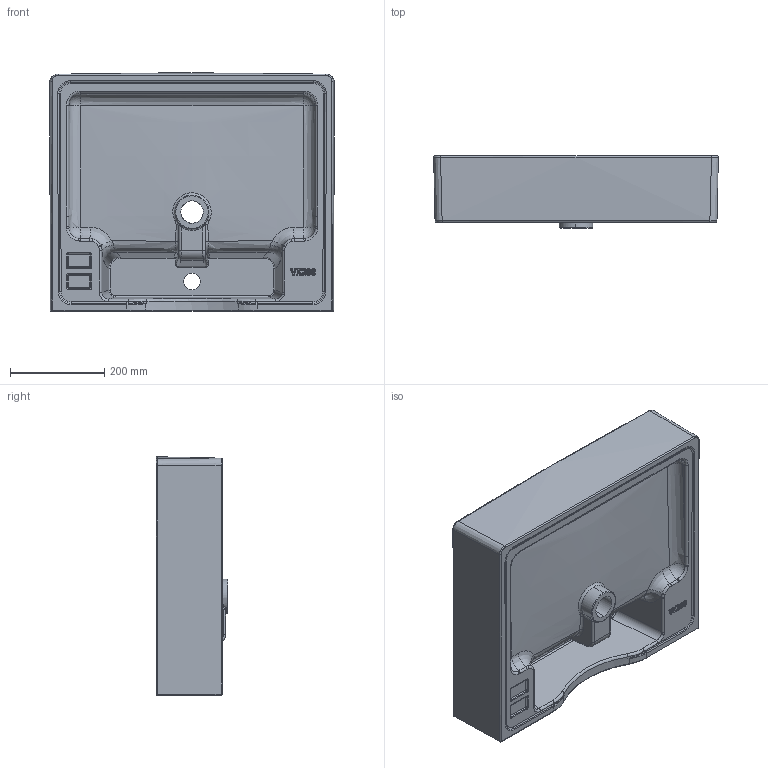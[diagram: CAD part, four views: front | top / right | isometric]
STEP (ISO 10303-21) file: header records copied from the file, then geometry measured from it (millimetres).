
FILE_DESCRIPTION (( 'STEP AP203' ), '1' );
FILE_NAME ('VX260-00CB00E-0000.STEP', '2022-06-21T08:17:20', ( '' ), ( '' ), 'SwSTEP 2.0', 'SolidWorks 2021', '' );
FILE_SCHEMA (( 'CONFIG_CONTROL_DESIGN' ));
Length unit declared in the file: millimetre
Products named in the file (1): VX260-00CB00E-0000
Bounding box: 602.8 x 152 x 504.88 mm (x, y, z)
Volume: 12829854 mm3; surface area: 1163448.6 mm2
Topology: 2 solids, 2 shells, 560 faces, 1330 edges, 729 vertices
Faces by surface type: bspline 215, cylinder 171, plane 69, torus 58, sphere 47
Entity records: 36517 total; most frequent: CARTESIAN_POINT 25293, ORIENTED_EDGE 2550, DIRECTION 2046, EDGE_CURVE 1275, AXIS2_PLACEMENT_3D 846, VERTEX_POINT 729, EDGE_LOOP 576, FACE_OUTER_BOUND 560
